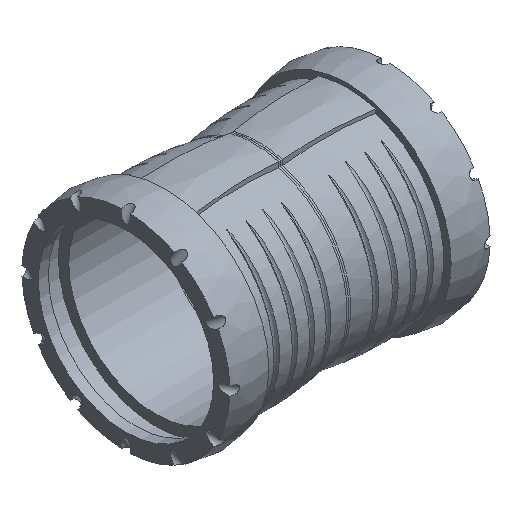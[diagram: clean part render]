
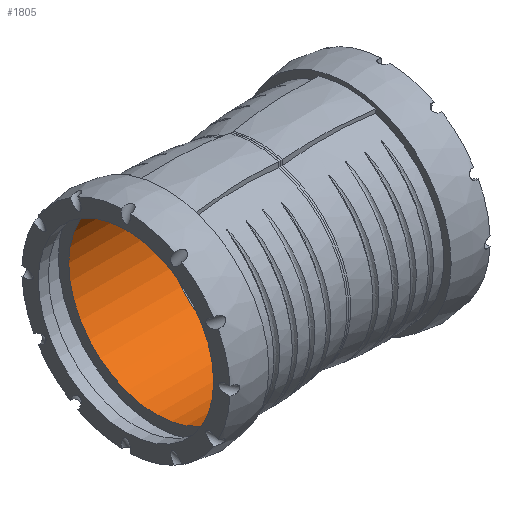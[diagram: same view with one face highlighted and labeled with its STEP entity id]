
A CAD part, isometric view. The second image highlights one B-rep face of the part: STEP entity #1805.
In plain terms, the highlighted cylindrical face has radius 37.95 mm (diameter 75.9 mm), a full revolution.
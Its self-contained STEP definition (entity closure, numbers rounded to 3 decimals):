
#363=FACE_OUTER_BOUND('',#589,.T.);
#400=CYLINDRICAL_SURFACE('',#1953,37.95);
#445=FACE_BOUND('',#590,.T.);
#589=EDGE_LOOP('',(#1573));
#590=EDGE_LOOP('',(#1574));
#661=CIRCLE('',#1952,37.95);
#662=CIRCLE('',#1954,37.95);
#837=VERTEX_POINT('',#7973);
#838=VERTEX_POINT('',#7976);
#1083=EDGE_CURVE('',#837,#837,#661,.T.);
#1084=EDGE_CURVE('',#838,#838,#662,.T.);
#1573=ORIENTED_EDGE('',*,*,#1083,.T.);
#1574=ORIENTED_EDGE('',*,*,#1084,.F.);
#1805=ADVANCED_FACE('',(#363,#445),#400,.F.);
#1952=AXIS2_PLACEMENT_3D('',#7974,#2254,#2255);
#1953=AXIS2_PLACEMENT_3D('',#7975,#2256,#2257);
#1954=AXIS2_PLACEMENT_3D('',#7977,#2258,#2259);
#2254=DIRECTION('center_axis',(-1.,0.,0.));
#2255=DIRECTION('ref_axis',(0.,0.,
-1.));
#2256=DIRECTION('center_axis',(-1.,0.,0.));
#2257=DIRECTION('ref_axis',(0.,-1.,0.));
#2258=DIRECTION('center_axis',(-1.,0.,0.));
#2259=DIRECTION('ref_axis',(0.,0.,
-1.));
#7973=CARTESIAN_POINT('',(-43.4,-37.95,0.));
#7974=CARTESIAN_POINT('Origin',(-43.4,0.,
0.));
#7975=CARTESIAN_POINT('Origin',(-23.45,0.,
0.));
#7976=CARTESIAN_POINT('',(-3.5,-37.95,0.));
#7977=CARTESIAN_POINT('Origin',(-3.5,0.,
0.));
